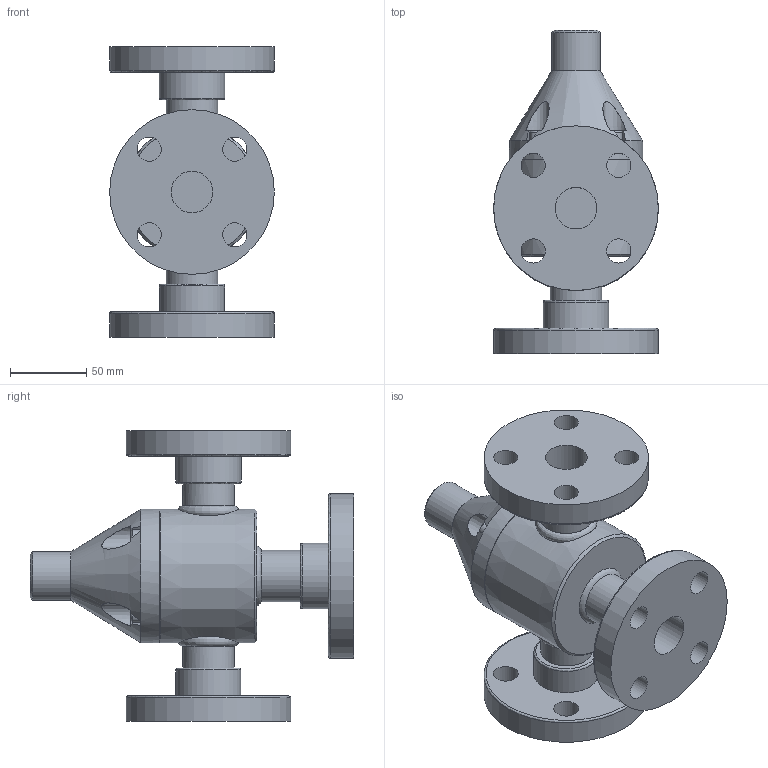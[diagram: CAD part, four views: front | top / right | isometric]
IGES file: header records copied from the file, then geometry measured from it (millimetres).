
Start section: SolidWorks IGES file using analytic representation for surfaces
Global section: file name: F:\Griffco-Valve\Griffco_current-projects\GV_web-files_2015\G Series Flanged\GPR1000-FLNG.IGS; native system: SolidWorks 2014; preprocessor: SolidWorks 2014; author: Dan; date: 160212.041640; units: inch
Bounding box: 108.09 x 212.09 x 190.5 mm (x, y, z)
Surface area: 138534.9 mm2 (no closed solid volume)
Topology: 0 solids, 1 shells, 137 faces, 583 edges, 530 vertices
Faces by surface type: bspline 80, revolution 57
